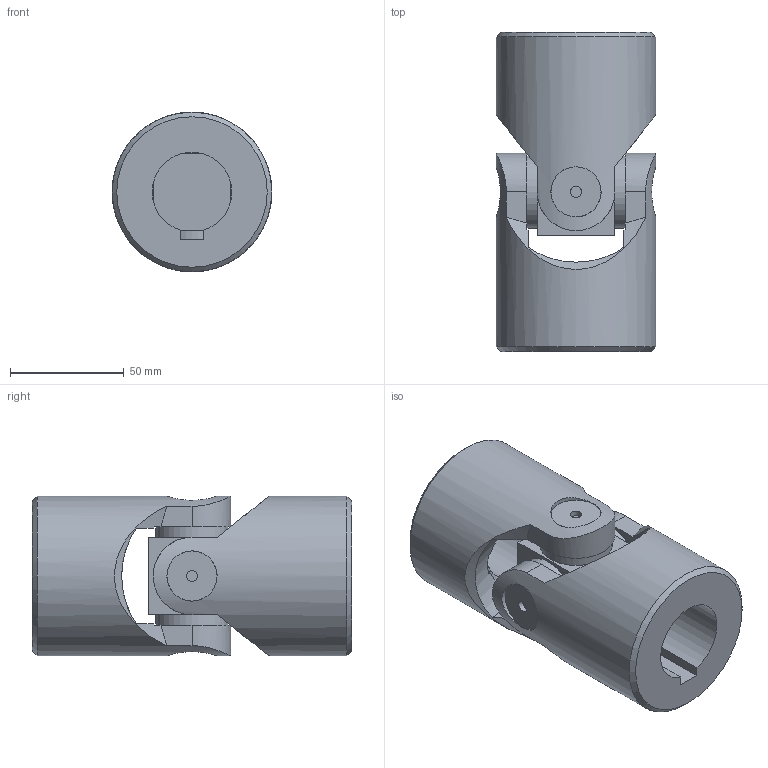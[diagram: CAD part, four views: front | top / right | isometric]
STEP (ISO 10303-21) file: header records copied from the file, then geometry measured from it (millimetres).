
FILE_DESCRIPTION(/* description */ (''),/* implementation_level */ '2;1');
FILE_NAME(/* name */ '\\SRV2016\Societa\Stefano\Disegni 3D\Dis. Clienti\0000Catalogo 3D\01Singoli G-GB\7G-2C_SG0S352C.stp',/* time_stamp */ '2021-11-10T11:26:00+01:00',/* author */ ('acquisti'),/* organization */ (''),/* preprocessor_version */ 'ST-DEVELOPER v15.6',/* originating_system */ 'Autodesk Inventor 2015',/* authorisation */ '');
FILE_SCHEMA (('AUTOMOTIVE_DESIGN { 1 0 10303 214 3 1 1 }'));
Length unit declared in the file: millimetre
Products named in the file (3): 7G SFE; 7G MOC; Assieme1
Assembly tree (3 placements, depth 2):
  Assieme1
    7G SFE
    7G MOC  x2
Bounding box: 70 x 140 x 70 mm (x, y, z)
Volume: 357093.4 mm3; surface area: 63005.3 mm2
Topology: 3 solids, 3 shells, 78 faces, 192 edges, 130 vertices
Faces by surface type: plane 42, cylinder 22, cone 12, torus 2
Full cylindrical faces by diameter (mm): 5 x4, 22 x4, 32 x4, 70 x2
Entity records: 1571 total; most frequent: CARTESIAN_POINT 514, DIRECTION 203, ORIENTED_EDGE 194, EDGE_CURVE 97, AXIS2_PLACEMENT_3D 85, VERTEX_POINT 73, EDGE_LOOP 66, FACE_OUTER_BOUND 46
